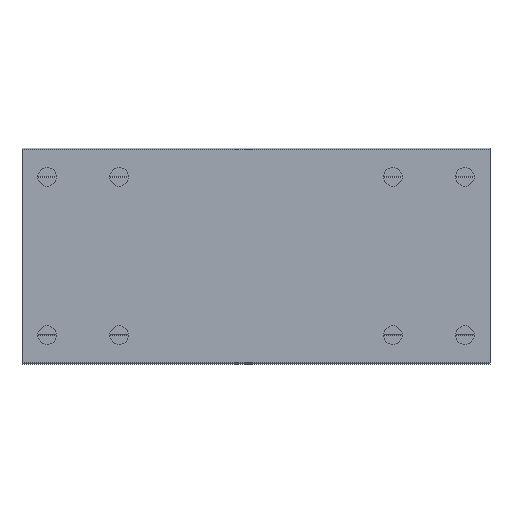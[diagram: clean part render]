
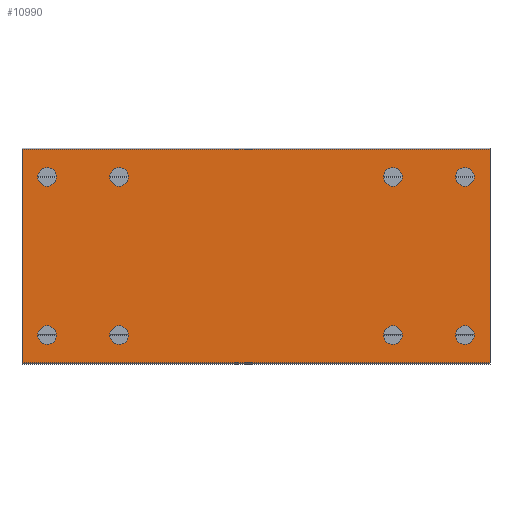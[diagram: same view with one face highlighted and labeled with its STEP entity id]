
A CAD part, front view. The second image highlights one B-rep face of the part: STEP entity #10990.
In plain terms, the highlighted planar face has unit normal (0, -1, 0).
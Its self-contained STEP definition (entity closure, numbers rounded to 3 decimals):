
#368=CIRCLE('',#11644,1.3);
#369=CIRCLE('',#11645,1.3);
#370=CIRCLE('',#11646,1.3);
#371=CIRCLE('',#11647,1.3);
#372=CIRCLE('',#11648,1.3);
#373=CIRCLE('',#11649,1.3);
#374=CIRCLE('',#11650,1.3);
#375=CIRCLE('',#11651,1.3);
#1108=ORIENTED_EDGE('',*,*,#4445,.F.);
#1109=ORIENTED_EDGE('',*,*,#4446,.F.);
#1110=ORIENTED_EDGE('',*,*,#4447,.F.);
#1111=ORIENTED_EDGE('',*,*,#4448,.F.);
#1112=ORIENTED_EDGE('',*,*,#4449,.T.);
#1113=ORIENTED_EDGE('',*,*,#4450,.F.);
#1114=ORIENTED_EDGE('',*,*,#4451,.F.);
#1115=ORIENTED_EDGE('',*,*,#4452,.F.);
#1116=ORIENTED_EDGE('',*,*,#4419,.T.);
#1117=ORIENTED_EDGE('',*,*,#4453,.F.);
#1118=ORIENTED_EDGE('',*,*,#4454,.F.);
#1119=ORIENTED_EDGE('',*,*,#4443,.T.);
#4419=EDGE_CURVE('',#6090,#6089,#7221,.T.);
#4443=EDGE_CURVE('',#6112,#6090,#7245,.T.);
#4445=EDGE_CURVE('',#6113,#6113,#368,.T.);
#4446=EDGE_CURVE('',#6114,#6114,#369,.T.);
#4447=EDGE_CURVE('',#6115,#6115,#370,.T.);
#4448=EDGE_CURVE('',#6116,#6116,#371,.T.);
#4449=EDGE_CURVE('',#6117,#6117,#372,.T.);
#4450=EDGE_CURVE('',#6118,#6118,#373,.T.);
#4451=EDGE_CURVE('',#6119,#6119,#374,.T.);
#4452=EDGE_CURVE('',#6120,#6120,#375,.T.);
#4453=EDGE_CURVE('',#6121,#6089,#7247,.T.);
#4454=EDGE_CURVE('',#6112,#6121,#7248,.T.);
#6089=VERTEX_POINT('',#16622);
#6090=VERTEX_POINT('',#16624);
#6112=VERTEX_POINT('',#16673);
#6113=VERTEX_POINT('',#16677);
#6114=VERTEX_POINT('',#16679);
#6115=VERTEX_POINT('',#16681);
#6116=VERTEX_POINT('',#16683);
#6117=VERTEX_POINT('',#16685);
#6118=VERTEX_POINT('',#16687);
#6119=VERTEX_POINT('',#16689);
#6120=VERTEX_POINT('',#16691);
#6121=VERTEX_POINT('',#16693);
#7221=LINE('',#16623,#8235);
#7245=LINE('',#16672,#8259);
#7247=LINE('',#16692,#8261);
#7248=LINE('',#16694,#8262);
#8235=VECTOR('',#12990,1000.);
#8259=VECTOR('',#13020,1000.);
#8261=VECTOR('',#13040,1000.);
#8262=VECTOR('',#13041,1000.);
#9205=EDGE_LOOP('',(#1108));
#9206=EDGE_LOOP('',(#1109));
#9207=EDGE_LOOP('',(#1110));
#9208=EDGE_LOOP('',(#1111));
#9209=EDGE_LOOP('',(#1112));
#9210=EDGE_LOOP('',(#1113));
#9211=EDGE_LOOP('',(#1114));
#9212=EDGE_LOOP('',(#1115));
#9213=EDGE_LOOP('',(#1116,#1117,#1118,#1119));
#9953=FACE_BOUND('',#9205,.T.);
#9954=FACE_BOUND('',#9206,.T.);
#9955=FACE_BOUND('',#9207,.T.);
#9956=FACE_BOUND('',#9208,.T.);
#9957=FACE_BOUND('',#9209,.T.);
#9958=FACE_BOUND('',#9210,.T.);
#9959=FACE_BOUND('',#9211,.T.);
#9960=FACE_BOUND('',#9212,.T.);
#9961=FACE_BOUND('',#9213,.T.);
#10701=PLANE('',#11643);
#10990=ADVANCED_FACE('',(#9953,#9954,#9955,#9956,#9957,#9958,#9959,#9960,
#9961),#10701,.F.);
#11643=AXIS2_PLACEMENT_3D('',#16675,#13022,#13023);
#11644=AXIS2_PLACEMENT_3D('',#16676,#13024,#13025);
#11645=AXIS2_PLACEMENT_3D('',#16678,#13026,#13027);
#11646=AXIS2_PLACEMENT_3D('',#16680,#13028,#13029);
#11647=AXIS2_PLACEMENT_3D('',#16682,#13030,#13031);
#11648=AXIS2_PLACEMENT_3D('',#16684,#13032,#13033);
#11649=AXIS2_PLACEMENT_3D('',#16686,#13034,#13035);
#11650=AXIS2_PLACEMENT_3D('',#16688,#13036,#13037);
#11651=AXIS2_PLACEMENT_3D('',#16690,#13038,#13039);
#12990=DIRECTION('',(0.,0.,-1.));
#13020=DIRECTION('',(-1.,0.,0.));
#13022=DIRECTION('',(0.,1.,0.));
#13023=DIRECTION('',(0.,0.,1.));
#13024=DIRECTION('',(0.,-1.,0.));
#13025=DIRECTION('',(0.,0.,-1.));
#13026=DIRECTION('',(0.,-1.,0.));
#13027=DIRECTION('',(0.,0.,-1.));
#13028=DIRECTION('',(0.,-1.,0.));
#13029=DIRECTION('',(0.,0.,-1.));
#13030=DIRECTION('',(0.,-1.,0.));
#13031=DIRECTION('',(0.,0.,-1.));
#13032=DIRECTION('',(0.,1.,0.));
#13033=DIRECTION('',(0.,0.,1.));
#13034=DIRECTION('',(0.,-1.,0.));
#13035=DIRECTION('',(0.,0.,-1.));
#13036=DIRECTION('',(0.,-1.,0.));
#13037=DIRECTION('',(0.,0.,-1.));
#13038=DIRECTION('',(0.,-1.,0.));
#13039=DIRECTION('',(0.,0.,-1.));
#13040=DIRECTION('',(-1.,0.,0.));
#13041=DIRECTION('',(0.,0.,-1.));
#16622=CARTESIAN_POINT('',(0.,0.,-14.85));
#16623=CARTESIAN_POINT('',(0.,0.,14.85));
#16624=CARTESIAN_POINT('',(0.,0.,14.85));
#16672=CARTESIAN_POINT('',(65.,0.,14.85));
#16673=CARTESIAN_POINT('',(65.,0.,14.85));
#16675=CARTESIAN_POINT('',(65.,0.,14.85));
#16676=CARTESIAN_POINT('',(51.5,0.,11.));
#16677=CARTESIAN_POINT('',(51.5,0.,9.7));
#16678=CARTESIAN_POINT('',(51.5,0.,-11.));
#16679=CARTESIAN_POINT('',(51.5,0.,-12.3));
#16680=CARTESIAN_POINT('',(13.5,0.,11.));
#16681=CARTESIAN_POINT('',(13.5,0.,9.7));
#16682=CARTESIAN_POINT('',(13.5,0.,-11.));
#16683=CARTESIAN_POINT('',(13.5,0.,-12.3));
#16684=CARTESIAN_POINT('',(61.5,0.,11.));
#16685=CARTESIAN_POINT('',(61.5,0.,12.3));
#16686=CARTESIAN_POINT('',(61.5,0.,-11.));
#16687=CARTESIAN_POINT('',(61.5,0.,-12.3));
#16688=CARTESIAN_POINT('',(3.5,0.,-11.));
#16689=CARTESIAN_POINT('',(3.5,0.,-12.3));
#16690=CARTESIAN_POINT('',(3.5,0.,11.));
#16691=CARTESIAN_POINT('',(3.5,0.,9.7));
#16692=CARTESIAN_POINT('',(65.,0.,-14.85));
#16693=CARTESIAN_POINT('',(65.,0.,-14.85));
#16694=CARTESIAN_POINT('',(65.,0.,14.85));
